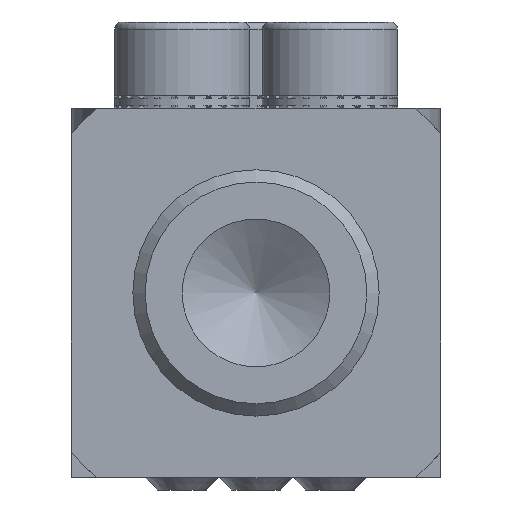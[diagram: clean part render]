
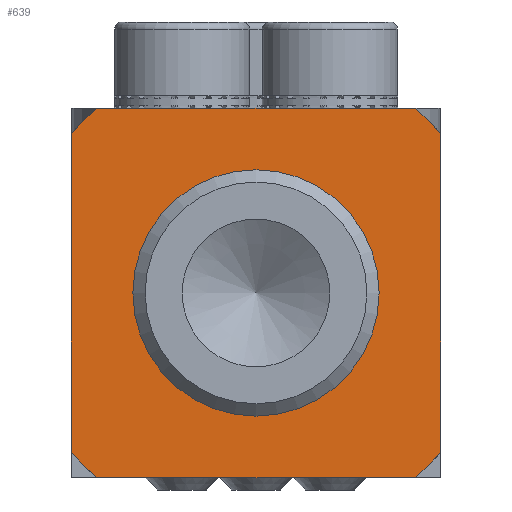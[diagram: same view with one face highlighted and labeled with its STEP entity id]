
A CAD part, left-side view. The second image highlights one B-rep face of the part: STEP entity #639.
In plain terms, the highlighted planar face has unit normal (-1, 0, 0).
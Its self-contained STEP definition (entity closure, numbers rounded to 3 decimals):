
#639=ADVANCED_FACE('',(#1257,#1258),#1259,.F.);
#1257=FACE_BOUND('',#2113,.T.);
#1258=FACE_OUTER_BOUND('',#2114,.T.);
#1259=PLANE('',#2115);
#2113=EDGE_LOOP('',(#2975));
#2114=EDGE_LOOP('',(#2976,#2977,#2978,#2979,#2980,#2981,#2982,#2983));
#2115=AXIS2_PLACEMENT_3D('',#2984,#2985,#2986);
#2975=ORIENTED_EDGE('',*,*,#5563,.T.);
#2976=ORIENTED_EDGE('',*,*,#5564,.F.);
#2977=ORIENTED_EDGE('',*,*,#5544,.T.);
#2978=ORIENTED_EDGE('',*,*,#5565,.F.);
#2979=ORIENTED_EDGE('',*,*,#5566,.T.);
#2980=ORIENTED_EDGE('',*,*,#5567,.T.);
#2981=ORIENTED_EDGE('',*,*,#5568,.T.);
#2982=ORIENTED_EDGE('',*,*,#5569,.T.);
#2983=ORIENTED_EDGE('',*,*,#5570,.T.);
#2984=CARTESIAN_POINT('',(0.0,-7.5,7.5));
#2985=DIRECTION('',(1.0,0.0,0.0));
#2986=DIRECTION('',(0.0,0.0,-1.0));
#5544=EDGE_CURVE('',#6585,#6586,#6587,.F.);
#5563=EDGE_CURVE('',#6615,#6615,#6616,.T.);
#5564=EDGE_CURVE('',#6585,#6617,#6618,.T.);
#5565=EDGE_CURVE('',#6619,#6586,#6620,.T.);
#5566=EDGE_CURVE('',#6619,#6621,#6622,.F.);
#5567=EDGE_CURVE('',#6621,#6623,#6624,.T.);
#5568=EDGE_CURVE('',#6623,#6625,#6626,.F.);
#5569=EDGE_CURVE('',#6625,#6627,#6628,.T.);
#5570=EDGE_CURVE('',#6627,#6617,#6629,.F.);
#6585=VERTEX_POINT('',#8160);
#6586=VERTEX_POINT('',#8161);
#6587=CIRCLE('',#8162,9.9);
#6615=VERTEX_POINT('',#8199);
#6616=CIRCLE('',#8200,5.0);
#6617=VERTEX_POINT('',#8201);
#6618=LINE('',#8202,#8203);
#6619=VERTEX_POINT('',#8204);
#6620=LINE('',#8205,#8206);
#6621=VERTEX_POINT('',#8207);
#6622=CIRCLE('',#8208,9.9);
#6623=VERTEX_POINT('',#8209);
#6624=LINE('',#8210,#8211);
#6625=VERTEX_POINT('',#8212);
#6626=CIRCLE('',#8213,9.9);
#6627=VERTEX_POINT('',#8214);
#6628=LINE('',#8215,#8216);
#6629=CIRCLE('',#8217,9.9);
#8160=CARTESIAN_POINT('',(0.0,-6.462,-7.5));
#8161=CARTESIAN_POINT('',(0.0,-7.5,-6.462));
#8162=AXIS2_PLACEMENT_3D('',#10255,#10256,#10257);
#8199=CARTESIAN_POINT('',(0.0,0.0,-5.0));
#8200=AXIS2_PLACEMENT_3D('',#10280,#10281,#10282);
#8201=CARTESIAN_POINT('',(0.0,6.462,-7.5));
#8202=CARTESIAN_POINT('',(0.0,-7.5,-7.5));
#8203=VECTOR('',#10283,1.0);
#8204=CARTESIAN_POINT('',(0.0,-7.5,6.462));
#8205=CARTESIAN_POINT('',(0.0,-7.5,7.5));
#8206=VECTOR('',#10284,1.0);
#8207=CARTESIAN_POINT('',(0.0,-6.462,7.5));
#8208=AXIS2_PLACEMENT_3D('',#10285,#10286,#10287);
#8209=CARTESIAN_POINT('',(0.0,6.462,7.5));
#8210=CARTESIAN_POINT('',(0.0,-7.5,7.5));
#8211=VECTOR('',#10288,1.0);
#8212=CARTESIAN_POINT('',(0.0,7.5,6.462));
#8213=AXIS2_PLACEMENT_3D('',#10289,#10290,#10291);
#8214=CARTESIAN_POINT('',(0.0,7.5,-6.462));
#8215=CARTESIAN_POINT('',(0.0,7.5,7.5));
#8216=VECTOR('',#10292,1.0);
#8217=AXIS2_PLACEMENT_3D('',#10293,#10294,#10295);
#10255=CARTESIAN_POINT('',(0.0,0.,0.));
#10256=DIRECTION('',(1.0,0.0,0.0));
#10257=DIRECTION('',(0.0,0.0,-1.0));
#10280=CARTESIAN_POINT('',(0.0,0.0,0.));
#10281=DIRECTION('',(1.0,0.0,0.0));
#10282=DIRECTION('',(0.0,0.0,-1.0));
#10283=DIRECTION('',(0.0,1.0,0.0));
#10284=DIRECTION('',(0.0,0.0,-1.0));
#10285=CARTESIAN_POINT('',(0.0,0.,0.));
#10286=DIRECTION('',(1.0,0.0,0.0));
#10287=DIRECTION('',(0.0,0.0,-1.0));
#10288=DIRECTION('',(0.0,1.0,0.0));
#10289=CARTESIAN_POINT('',(0.0,0.,0.));
#10290=DIRECTION('',(1.0,0.0,0.0));
#10291=DIRECTION('',(0.0,0.0,-1.0));
#10292=DIRECTION('',(0.0,0.0,-1.0));
#10293=CARTESIAN_POINT('',(0.0,0.,0.));
#10294=DIRECTION('',(1.0,0.0,0.0));
#10295=DIRECTION('',(0.0,0.0,-1.0));
